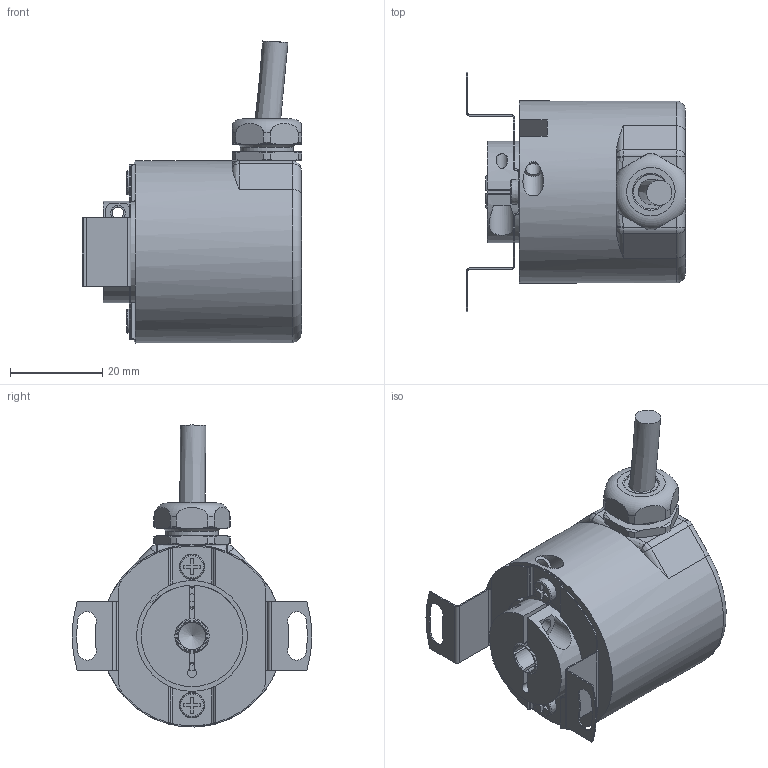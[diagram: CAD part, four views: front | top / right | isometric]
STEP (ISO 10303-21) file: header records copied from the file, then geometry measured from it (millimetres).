
FILE_DESCRIPTION( ( 'Unknown' ), '1' );
FILE_NAME( 'C:/Users/malfermoa/Desktop/step/EL38_F_standard.stp', 'Unknown', ( 'Unknown' ), ( 'Unknown' ), 'PSStep 15.0.49', 'Unknown', ' ' );
FILE_SCHEMA( ( 'AUTOMOTIVE_DESIGN { 1 0 10303 214 1 1 1 1 }' ) );
Length unit declared in the file: millimetre
Products named in the file (29): cavo
Bounding box: 47.51 x 52 x 65.48 mm (x, y, z)
Volume: 25468.5 mm3; surface area: 24375.4 mm2
Topology: 29 solids, 41 shells, 469 faces, 1217 edges, 783 vertices
Faces by surface type: plane 181, cylinder 147, cone 79, sphere 32, torus 23, bspline 7
Full cylindrical faces by diameter (mm): 1.4 x3, 2.013 x3, 2.459 x2, 2.5 x1, 3 x2, 3.2 x1, 3.242 x1, 3.5 x2, 4 x1, 4.5 x1, 6 x2, 7.5 x1, 7.7 x1, 8 x1, 10 x2, 11 x1, 11.5 x1, 11.89 x1, 12 x4, 12.5 x1, 12.6 x2, 14.5 x1, 15 x4, 18.2 x4, 19 x1, 20.4 x2, 21 x3, 24 x1, 26.5 x1, 34.5 x1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
Entity records: 18578 total; most frequent: CARTESIAN_POINT 4203, DIRECTION 2177, ORIENTED_EDGE 1914, EDGE_CURVE 957, AXIS2_PLACEMENT_3D 896, VERTEX_POINT 738, EDGE_LOOP 611, FACE_OUTER_BOUND 510
